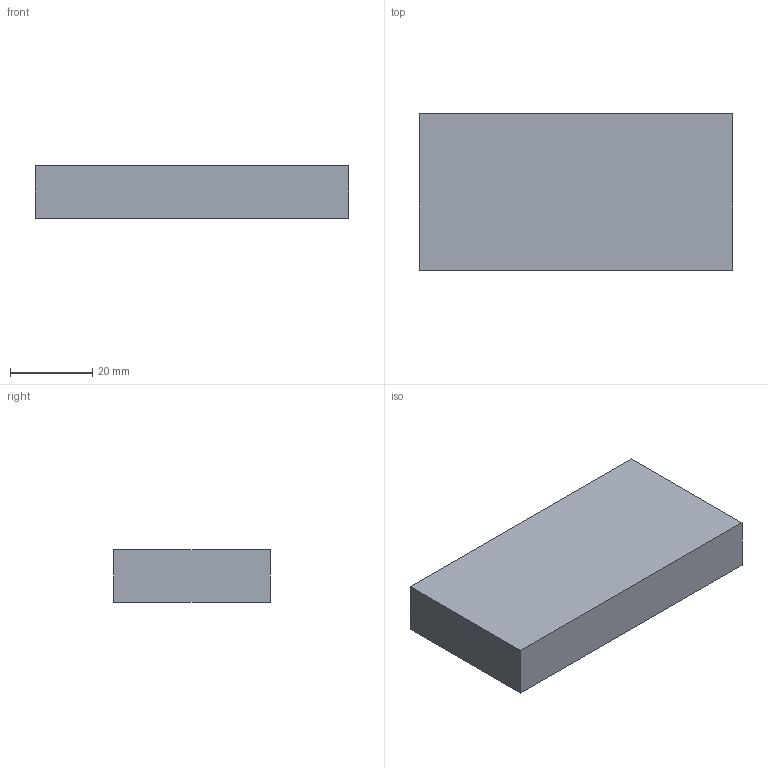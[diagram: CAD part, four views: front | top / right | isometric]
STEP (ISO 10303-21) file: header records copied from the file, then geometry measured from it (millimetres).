
FILE_DESCRIPTION(('STEP AP242 Edition 2','STEP AP242 Edition 2''CAx-IF Rec.Pracs.---Representation and Presentation of Product Manufacturing Information (PMI)---4.0---2014-10-13','STEP AP242 Edition 2''CAx-IF Rec.Pracs.---Representation and Presentation of Product Manufacturing Information (PMI)---4.0---2014-10-13''CAx-IF Rec.Pracs.---3D Tessellated Geometry---0.4---2014-09-14','STEP AP242 Edition 2''CAx-IF Rec.Pracs.---Representation and Presentation of Product Manufacturing Information (PMI)---4.0---2014-10-13''CAx-IF Rec.Pracs.---3D Tessellated Geometry---0.4---2014-09-14''2;1','STEP AP242 Edition 2''CAx-IF Rec.Pracs.---Representation and Presentation of Product Manufacturing Information (PMI)---4.0---2014-10-13''CAx-IF Rec.Pracs.---3D Tessellated Geometry---0.4---2014-09-14''2;1''CAx-IF Rec.Pracs.---User Defined Attributes---1.5---2016-08-15'),'2;1');
FILE_NAME('/vol/tmp/translate-2016734348789797861/Part Studio 1 - Part 11.step','2026-03-05T22:36:48',(''),(''),'ST-DEVELOPER v20','ONSHAPE BY PTC INC, 1.211',' ');
FILE_SCHEMA(('AP242_MANAGED_MODEL_BASED_3D_ENGINEERING_MIM_LF { 1 0 10303 442 3 1 4 }'));
Length unit declared in the file: metre
Products named in the file (1): Part 11
Bounding box: 76.2 x 38.1 x 12.7 mm (x, y, z)
Volume: 36870.9 mm3; surface area: 8709.7 mm2
Topology: 1 solids, 1 shells, 6 faces, 12 edges, 8 vertices
Faces by surface type: plane 6
Entity records: 178 total; most frequent: CARTESIAN_POINT 27, DIRECTION 26, ORIENTED_EDGE 24, EDGE_CURVE 12, LINE 12, VECTOR 12, VERTEX_POINT 8, AXIS2_PLACEMENT_3D 7
